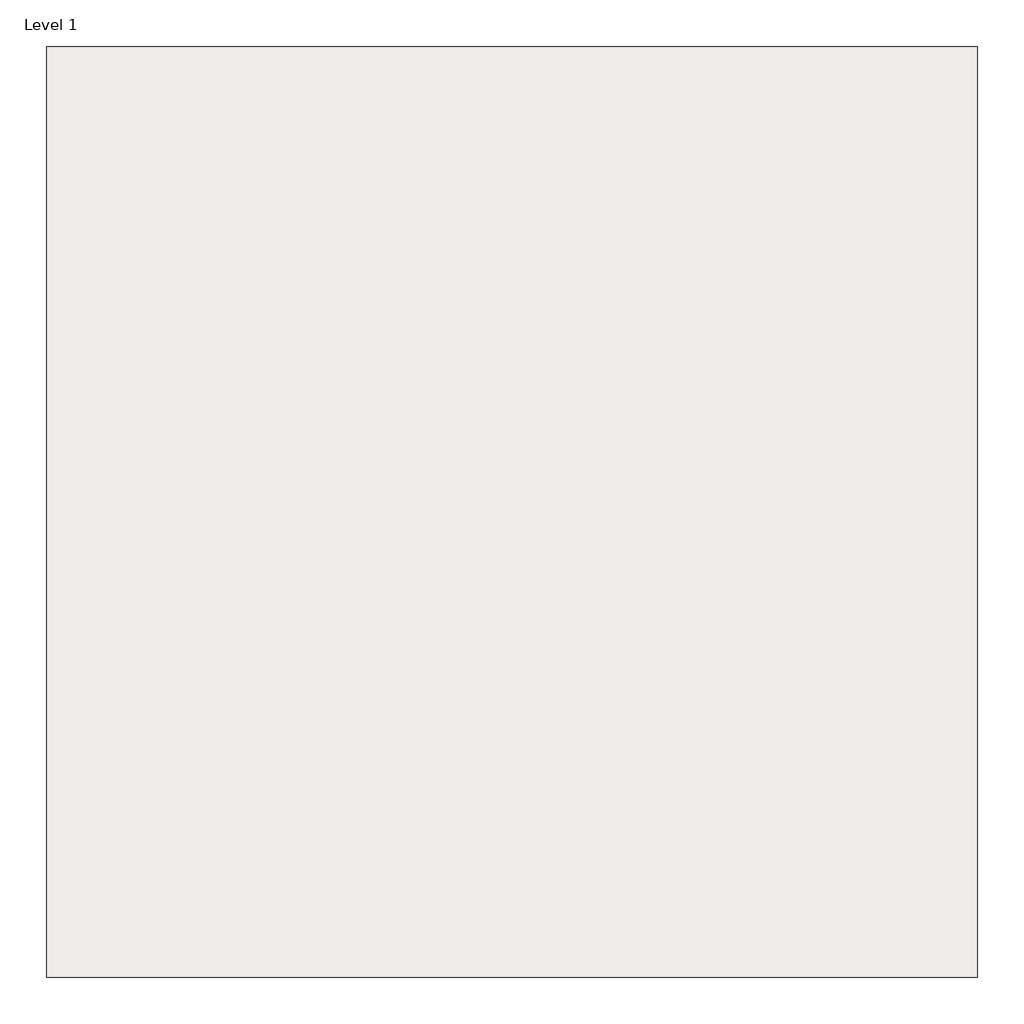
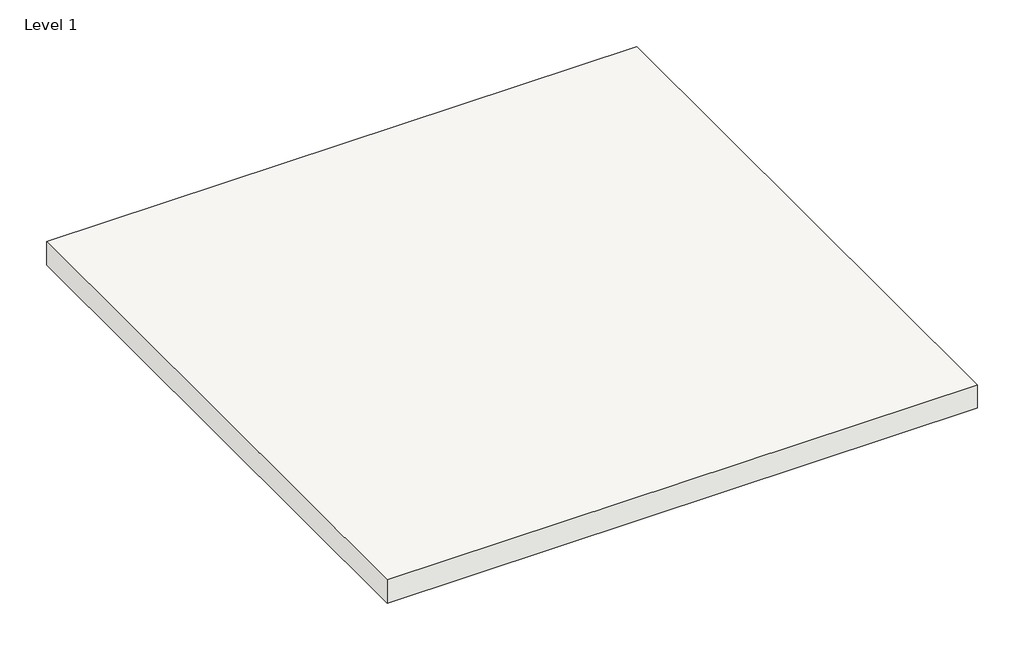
# One storey: 1 covering.
"""IFC4 building model written with IfcOpenShell, lengths in millimetres."""

from ifc_helpers import new_model, si_unit, origin, origin_with_axes, place, context, project, spatial, polyline, outline, extrude, element, save

model = new_model("IFC4")

# Units and contexts
model_context = context("Model", 3, world=origin())
ifc_project = project(units=[si_unit("LENGTHUNIT", "METRE", prefix="MILLI")], contexts=[model_context])

# Site, building, storey
site = spatial("IfcSite", under=ifc_project)
building = spatial("IfcBuilding", under=site)
storey = spatial("IfcBuildingStorey", under=building, Name="Level 1", Elevation=0.0)

# Covering
placement = place(None, origin())
element("IfcCovering", 1, ObjectType="RIGIPS - 4.05.71 (125)", at=placement, inside=storey, context=model_context, shape_type="SweptSolid", body=[
    extrude(outline(polyline([(-1500.0, 1500.0), (1500.0, 1500.0), (1500.0, -1500.0), (-1500.0, -1500.0), (-1500.0, 1500.0)])), origin_with_axes(), (0.0, 0.0, 1.0), 125.0),
])

save(model, "model.ifc")
